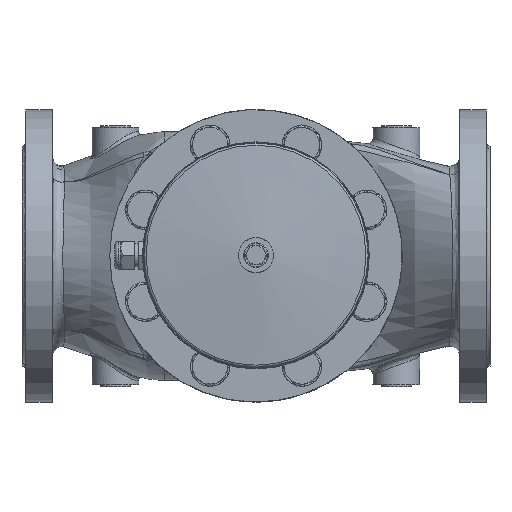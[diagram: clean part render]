
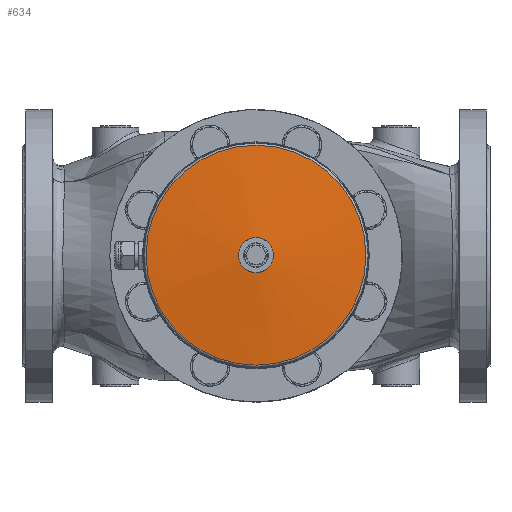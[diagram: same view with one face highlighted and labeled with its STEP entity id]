
A CAD part, top view. The second image highlights one B-rep face of the part: STEP entity #634.
In plain terms, the highlighted conical face has half-angle 84.937 degrees and reference radius 55.344 mm.
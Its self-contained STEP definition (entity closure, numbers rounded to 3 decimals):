
#603=CARTESIAN_POINT('',(-15.088,0.,497.992));
#604=VERTEX_POINT('',#603);
#605=CARTESIAN_POINT('',(0.,0.,497.992));
#606=DIRECTION('',(0.0,0.0,1.0));
#607=DIRECTION('',(1.0,0.0,0.0));
#608=AXIS2_PLACEMENT_3D('',#605,#606,#607);
#609=CIRCLE('',#608,15.088);
#610=EDGE_CURVE('',#604,#604,#609,.T.);
#615=CARTESIAN_POINT('',(0.,0.,494.426));
#616=DIRECTION('',(0.,0.,-1.0));
#617=DIRECTION('',(-1.0,0.0,0.0));
#618=AXIS2_PLACEMENT_3D('',#615,#616,#617);
#619=CONICAL_SURFACE('',#618,55.344,84.937);
#620=CARTESIAN_POINT('',(-93.988,0.,491.002));
#621=VERTEX_POINT('',#620);
#622=CARTESIAN_POINT('',(0.,0.,491.002));
#623=DIRECTION('',(0.0,0.0,-1.0));
#624=DIRECTION('',(1.0,0.0,0.0));
#625=AXIS2_PLACEMENT_3D('',#622,#623,#624);
#626=CIRCLE('',#625,93.988);
#627=EDGE_CURVE('',#621,#621,#626,.T.);
#628=ORIENTED_EDGE('',*,*,#627,.F.);
#629=EDGE_LOOP('',(#628));
#630=FACE_OUTER_BOUND('',#629,.T.);
#631=ORIENTED_EDGE('',*,*,#610,.F.);
#632=EDGE_LOOP('',(#631));
#633=FACE_BOUND('',#632,.T.);
#634=ADVANCED_FACE('',(#630,#633),#619,.T.);
